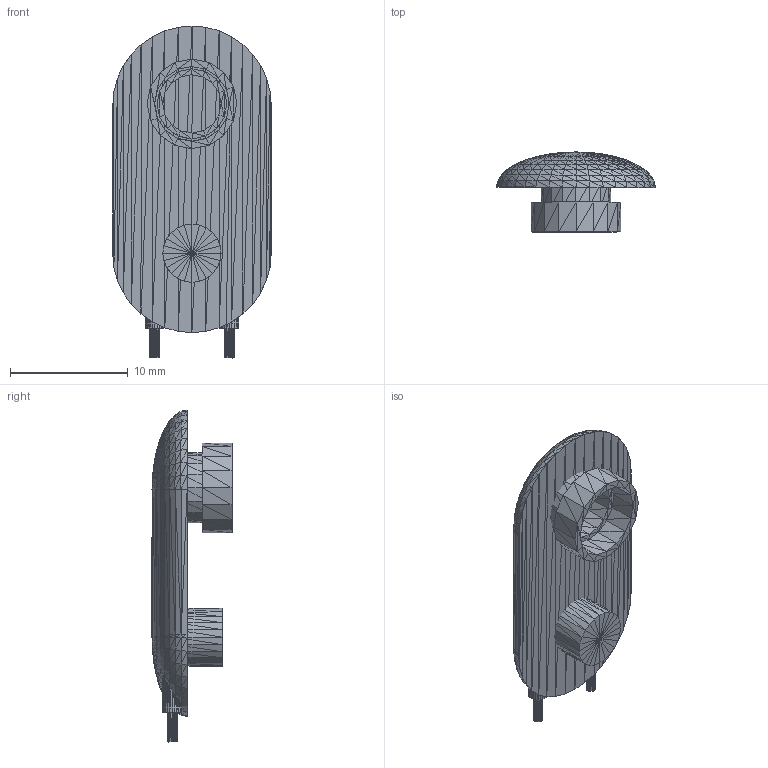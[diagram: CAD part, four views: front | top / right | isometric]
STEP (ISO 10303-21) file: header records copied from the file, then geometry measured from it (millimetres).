
FILE_DESCRIPTION(('HOOPS Exchange Step'),'2;1');
FILE_NAME('***.stp');
FILE_SCHEMA( ('AP242_MANAGED_MODEL_BASED_3D_ENGINEERING_MIM_LF {1 0 10303 442 1 1 4 }') );
Length unit declared in the file: inch
Products named in the file (9): BATT9VCLIP_2; BATT9VCLIP_3; BATT9VCLIP_4; BATT9VCLIP_5; BATT9VCLIP_6; BATT9VCLIP_7; BATT9VCLIP_8; BATT9VCLIP_9; BATT9VCLIP
Assembly tree (8 placements, depth 2):
  BATT9VCLIP
    BATT9VCLIP_2
    BATT9VCLIP_3
    BATT9VCLIP_4
    BATT9VCLIP_5
    BATT9VCLIP_6
    BATT9VCLIP_7
    BATT9VCLIP_8
    BATT9VCLIP_9
Bounding box: 13.51 x 6.81 x 28.21 mm (x, y, z)
Surface area: 2159 mm2 (no closed solid volume)
Topology: 0 solids, 3444 shells, 3444 faces, 6984 edges, 6250 vertices
Faces by surface type: plane 3444
Entity records: 91552 total; most frequent: CARTESIAN_POINT 16696, DIRECTION 13908, ORIENTED_EDGE 10332, VECTOR 6984, LINE 6984, EDGE_CURVE 6984, VERTEX_POINT 6250, AXIS2_PLACEMENT_3D 3462
